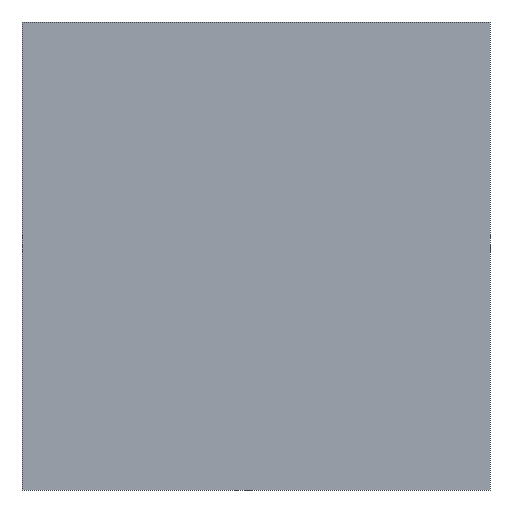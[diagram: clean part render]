
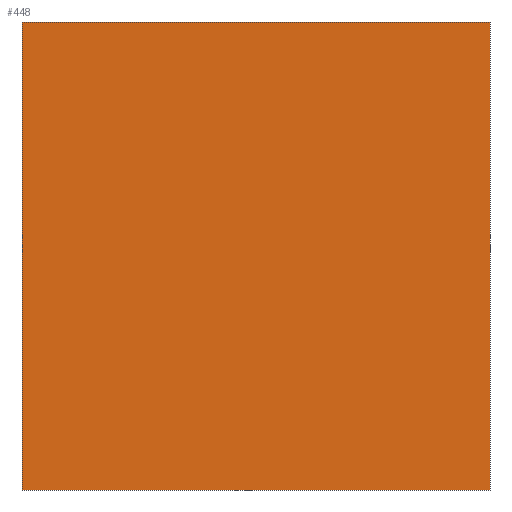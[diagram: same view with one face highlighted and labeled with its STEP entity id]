
A CAD part, front view. The second image highlights one B-rep face of the part: STEP entity #448.
In plain terms, the highlighted planar face has unit normal (0, -1, 0).
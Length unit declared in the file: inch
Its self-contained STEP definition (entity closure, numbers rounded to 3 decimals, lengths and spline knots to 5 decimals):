
#26=PLANE('',#513);
#67=LINE('',#860,#103);
#70=LINE('',#865,#106);
#72=LINE('',#869,#108);
#74=LINE('',#872,#110);
#103=VECTOR('',#638,0.3937);
#106=VECTOR('',#643,0.3937);
#108=VECTOR('',#647,0.3937);
#110=VECTOR('',#651,0.3937);
#153=FACE_OUTER_BOUND('',#185,.T.);
#185=EDGE_LOOP('',(#410,#411,#412,#413));
#230=VERTEX_POINT('',#858);
#231=VERTEX_POINT('',#859);
#232=VERTEX_POINT('',#864);
#233=VERTEX_POINT('',#868);
#286=EDGE_CURVE('',#230,#231,#67,.T.);
#289=EDGE_CURVE('',#231,#232,#70,.T.);
#291=EDGE_CURVE('',#232,#233,#72,.T.);
#293=EDGE_CURVE('',#233,#230,#74,.T.);
#410=ORIENTED_EDGE('',*,*,#293,.T.);
#411=ORIENTED_EDGE('',*,*,#286,.T.);
#412=ORIENTED_EDGE('',*,*,#289,.T.);
#413=ORIENTED_EDGE('',*,*,#291,.T.);
#448=ADVANCED_FACE('',(#153),#26,.F.);
#513=AXIS2_PLACEMENT_3D('',#873,#652,#653);
#638=DIRECTION('',(0.,0.,1.));
#643=DIRECTION('',(-1.,0.,0.));
#647=DIRECTION('',(0.,0.,-1.));
#651=DIRECTION('',(1.,0.,0.));
#652=DIRECTION('center_axis',(0.,1.,0.));
#653=DIRECTION('ref_axis',(1.,0.,0.));
#858=CARTESIAN_POINT('',(0.25,0.,-0.25));
#859=CARTESIAN_POINT('',(0.25,0.,0.25));
#860=CARTESIAN_POINT('',(0.25,0.,-0.25));
#864=CARTESIAN_POINT('',(-0.25,0.,0.25));
#865=CARTESIAN_POINT('',(0.25,0.,0.25));
#868=CARTESIAN_POINT('',(-0.25,0.,-0.25));
#869=CARTESIAN_POINT('',(-0.25,0.,0.25));
#872=CARTESIAN_POINT('',(-0.25,0.,-0.25));
#873=CARTESIAN_POINT('Origin',(0.,0.,0.));
